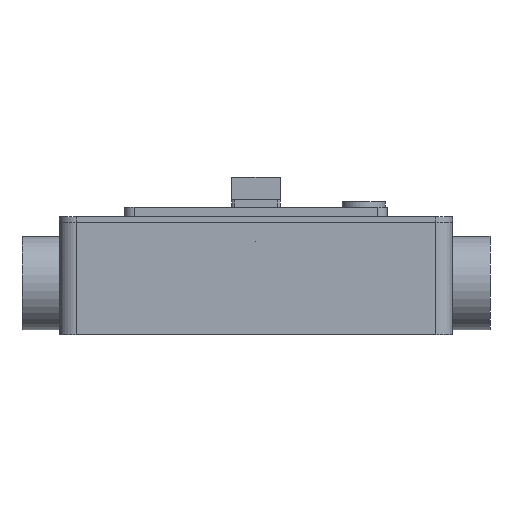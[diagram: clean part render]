
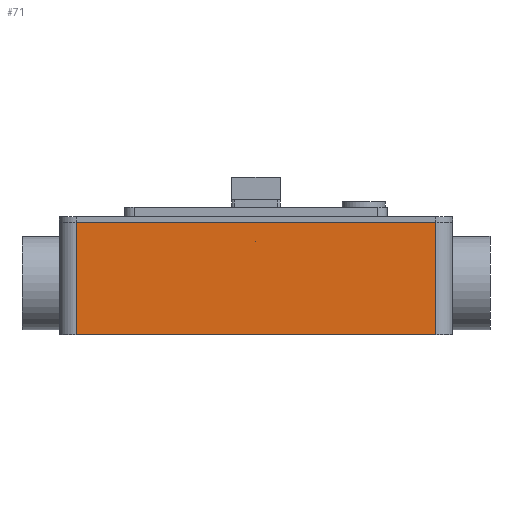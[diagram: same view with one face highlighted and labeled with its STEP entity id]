
A CAD part, left-side view. The second image highlights one B-rep face of the part: STEP entity #71.
In plain terms, the highlighted planar face has unit normal (-1, 0, 0).
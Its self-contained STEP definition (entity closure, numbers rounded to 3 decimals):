
#71 = ADVANCED_FACE('',(#72),#86,.F.);
#72 = FACE_BOUND('',#73,.F.);
#73 = EDGE_LOOP('',(#74,#109,#137,#165));
#74 = ORIENTED_EDGE('',*,*,#75,.F.);
#75 = EDGE_CURVE('',#76,#78,#80,.T.);
#76 = VERTEX_POINT('',#77);
#77 = CARTESIAN_POINT('',(-240.,-192.,120.));
#78 = VERTEX_POINT('',#79);
#79 = CARTESIAN_POINT('',(-240.,192.,120.));
#80 = SURFACE_CURVE('',#81,(#85,#97),.PCURVE_S1.);
#81 = LINE('',#82,#83);
#82 = CARTESIAN_POINT('',(-240.,-210.,120.));
#83 = VECTOR('',#84,1.);
#84 = DIRECTION('',(0.,1.,0.));
#85 = PCURVE('',#86,#91);
#86 = PLANE('',#87);
#87 = AXIS2_PLACEMENT_3D('',#88,#89,#90);
#88 = CARTESIAN_POINT('',(-240.,-210.,0.));
#89 = DIRECTION('',(1.,0.,0.));
#90 = DIRECTION('',(0.,0.,1.));
#91 = DEFINITIONAL_REPRESENTATION('',(#92),#96);
#92 = LINE('',#93,#94);
#93 = CARTESIAN_POINT('',(120.,0.));
#94 = VECTOR('',#95,1.);
#95 = DIRECTION('',(0.,-1.));
#96 = ( GEOMETRIC_REPRESENTATION_CONTEXT(2) 
PARAMETRIC_REPRESENTATION_CONTEXT() REPRESENTATION_CONTEXT('2D SPACE',''
  ) );
#97 = PCURVE('',#98,#103);
#98 = PLANE('',#99);
#99 = AXIS2_PLACEMENT_3D('',#100,#101,#102);
#100 = CARTESIAN_POINT('',(-240.,-210.,120.));
#101 = DIRECTION('',(0.,0.,1.));
#102 = DIRECTION('',(1.,0.,0.));
#103 = DEFINITIONAL_REPRESENTATION('',(#104),#108);
#104 = LINE('',#105,#106);
#105 = CARTESIAN_POINT('',(0.,0.));
#106 = VECTOR('',#107,1.);
#107 = DIRECTION('',(0.,1.));
#108 = ( GEOMETRIC_REPRESENTATION_CONTEXT(2) 
PARAMETRIC_REPRESENTATION_CONTEXT() REPRESENTATION_CONTEXT('2D SPACE',''
  ) );
#109 = ORIENTED_EDGE('',*,*,#110,.F.);
#110 = EDGE_CURVE('',#111,#76,#113,.T.);
#111 = VERTEX_POINT('',#112);
#112 = CARTESIAN_POINT('',(-240.,-192.,0.));
#113 = SURFACE_CURVE('',#114,(#118,#125),.PCURVE_S1.);
#114 = LINE('',#115,#116);
#115 = CARTESIAN_POINT('',(-240.,-192.,0.));
#116 = VECTOR('',#117,1.);
#117 = DIRECTION('',(0.,0.,1.));
#118 = PCURVE('',#86,#119);
#119 = DEFINITIONAL_REPRESENTATION('',(#120),#124);
#120 = LINE('',#121,#122);
#121 = CARTESIAN_POINT('',(0.,-18.));
#122 = VECTOR('',#123,1.);
#123 = DIRECTION('',(1.,0.));
#124 = ( GEOMETRIC_REPRESENTATION_CONTEXT(2) 
PARAMETRIC_REPRESENTATION_CONTEXT() REPRESENTATION_CONTEXT('2D SPACE',''
  ) );
#125 = PCURVE('',#126,#131);
#126 = CYLINDRICAL_SURFACE('',#127,18.);
#127 = AXIS2_PLACEMENT_3D('',#128,#129,#130);
#128 = CARTESIAN_POINT('',(-222.,-192.,0.));
#129 = DIRECTION('',(0.,0.,1.));
#130 = DIRECTION('',(-1.,-0.,0.));
#131 = DEFINITIONAL_REPRESENTATION('',(#132),#136);
#132 = LINE('',#133,#134);
#133 = CARTESIAN_POINT('',(0.,0.));
#134 = VECTOR('',#135,1.);
#135 = DIRECTION('',(0.,1.));
#136 = ( GEOMETRIC_REPRESENTATION_CONTEXT(2) 
PARAMETRIC_REPRESENTATION_CONTEXT() REPRESENTATION_CONTEXT('2D SPACE',''
  ) );
#137 = ORIENTED_EDGE('',*,*,#138,.T.);
#138 = EDGE_CURVE('',#111,#139,#141,.T.);
#139 = VERTEX_POINT('',#140);
#140 = CARTESIAN_POINT('',(-240.,192.,0.));
#141 = SURFACE_CURVE('',#142,(#146,#153),.PCURVE_S1.);
#142 = LINE('',#143,#144);
#143 = CARTESIAN_POINT('',(-240.,-210.,0.));
#144 = VECTOR('',#145,1.);
#145 = DIRECTION('',(0.,1.,0.));
#146 = PCURVE('',#86,#147);
#147 = DEFINITIONAL_REPRESENTATION('',(#148),#152);
#148 = LINE('',#149,#150);
#149 = CARTESIAN_POINT('',(0.,0.));
#150 = VECTOR('',#151,1.);
#151 = DIRECTION('',(0.,-1.));
#152 = ( GEOMETRIC_REPRESENTATION_CONTEXT(2) 
PARAMETRIC_REPRESENTATION_CONTEXT() REPRESENTATION_CONTEXT('2D SPACE',''
  ) );
#153 = PCURVE('',#154,#159);
#154 = PLANE('',#155);
#155 = AXIS2_PLACEMENT_3D('',#156,#157,#158);
#156 = CARTESIAN_POINT('',(-240.,-210.,0.));
#157 = DIRECTION('',(0.,0.,1.));
#158 = DIRECTION('',(1.,0.,0.));
#159 = DEFINITIONAL_REPRESENTATION('',(#160),#164);
#160 = LINE('',#161,#162);
#161 = CARTESIAN_POINT('',(0.,0.));
#162 = VECTOR('',#163,1.);
#163 = DIRECTION('',(0.,1.));
#164 = ( GEOMETRIC_REPRESENTATION_CONTEXT(2) 
PARAMETRIC_REPRESENTATION_CONTEXT() REPRESENTATION_CONTEXT('2D SPACE',''
  ) );
#165 = ORIENTED_EDGE('',*,*,#166,.T.);
#166 = EDGE_CURVE('',#139,#78,#167,.T.);
#167 = SURFACE_CURVE('',#168,(#172,#179),.PCURVE_S1.);
#168 = LINE('',#169,#170);
#169 = CARTESIAN_POINT('',(-240.,192.,0.));
#170 = VECTOR('',#171,1.);
#171 = DIRECTION('',(0.,0.,1.));
#172 = PCURVE('',#86,#173);
#173 = DEFINITIONAL_REPRESENTATION('',(#174),#178);
#174 = LINE('',#175,#176);
#175 = CARTESIAN_POINT('',(0.,-402.));
#176 = VECTOR('',#177,1.);
#177 = DIRECTION('',(1.,0.));
#178 = ( GEOMETRIC_REPRESENTATION_CONTEXT(2) 
PARAMETRIC_REPRESENTATION_CONTEXT() REPRESENTATION_CONTEXT('2D SPACE',''
  ) );
#179 = PCURVE('',#180,#185);
#180 = CYLINDRICAL_SURFACE('',#181,18.);
#181 = AXIS2_PLACEMENT_3D('',#182,#183,#184);
#182 = CARTESIAN_POINT('',(-222.,192.,0.));
#183 = DIRECTION('',(0.,0.,1.));
#184 = DIRECTION('',(-1.,-0.,0.));
#185 = DEFINITIONAL_REPRESENTATION('',(#186),#190);
#186 = LINE('',#187,#188);
#187 = CARTESIAN_POINT('',(-0.,0.));
#188 = VECTOR('',#189,1.);
#189 = DIRECTION('',(-0.,1.));
#190 = ( GEOMETRIC_REPRESENTATION_CONTEXT(2) 
PARAMETRIC_REPRESENTATION_CONTEXT() REPRESENTATION_CONTEXT('2D SPACE',''
  ) );
